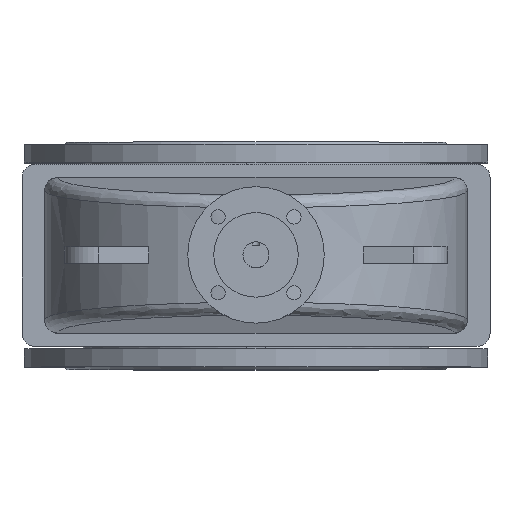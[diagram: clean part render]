
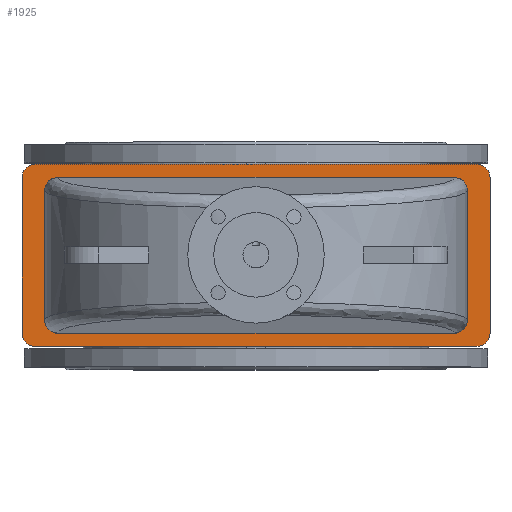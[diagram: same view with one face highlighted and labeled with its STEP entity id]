
A CAD part, top view. The second image highlights one B-rep face of the part: STEP entity #1925.
In plain terms, the highlighted planar face has unit normal (0, 0, 1).
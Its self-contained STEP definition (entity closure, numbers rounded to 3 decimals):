
#1925=ADVANCED_FACE('',(#5661,#5663),#5665,.T.);
#5661=FACE_BOUND('',#5662,.T.);
#5662=EDGE_LOOP('',(#7621,#7622,#7623,#7624,#7625,#7626,#7627,#7628));
#5663=FACE_BOUND('',#5664,.T.);
#5664=EDGE_LOOP('',(#7629,#7630,#7631,#7632,#7633,#7634,#7635,#7636));
#5665=PLANE('',#5666);
#5666=AXIS2_PLACEMENT_3D('',#5667,#5668,#5669);
#5667=CARTESIAN_POINT('',(0.,0.,566.));
#5668=DIRECTION('',(0.,-0.,1.));
#5669=DIRECTION('',(0.,1.,0.));
#7621=ORIENTED_EDGE('',*,*,#8281,.F.);
#7622=ORIENTED_EDGE('',*,*,#8294,.T.);
#7623=ORIENTED_EDGE('',*,*,#8293,.F.);
#7624=ORIENTED_EDGE('',*,*,#8291,.T.);
#7625=ORIENTED_EDGE('',*,*,#8289,.F.);
#7626=ORIENTED_EDGE('',*,*,#8287,.T.);
#7627=ORIENTED_EDGE('',*,*,#8285,.F.);
#7628=ORIENTED_EDGE('',*,*,#8282,.T.);
#7629=ORIENTED_EDGE('',*,*,#8295,.F.);
#7630=ORIENTED_EDGE('',*,*,#8296,.F.);
#7631=ORIENTED_EDGE('',*,*,#8297,.F.);
#7632=ORIENTED_EDGE('',*,*,#8298,.F.);
#7633=ORIENTED_EDGE('',*,*,#8299,.F.);
#7634=ORIENTED_EDGE('',*,*,#8300,.F.);
#7635=ORIENTED_EDGE('',*,*,#8301,.F.);
#7636=ORIENTED_EDGE('',*,*,#8302,.F.);
#8281=EDGE_CURVE('',#9199,#9197,#9201,.F.);
#8282=EDGE_CURVE('',#9202,#9197,#9203,.T.);
#8285=EDGE_CURVE('',#9202,#9205,#9207,.F.);
#8287=EDGE_CURVE('',#9208,#9205,#9210,.T.);
#8289=EDGE_CURVE('',#9208,#9211,#9213,.F.);
#8291=EDGE_CURVE('',#9214,#9211,#9216,.T.);
#8293=EDGE_CURVE('',#9214,#9217,#9219,.F.);
#8294=EDGE_CURVE('',#9199,#9217,#9220,.T.);
#8295=EDGE_CURVE('',#9221,#9222,#9223,.F.);
#8296=EDGE_CURVE('',#9224,#9221,#9225,.T.);
#8297=EDGE_CURVE('',#9226,#9224,#9227,.T.);
#8298=EDGE_CURVE('',#9228,#9226,#9229,.T.);
#8299=EDGE_CURVE('',#9230,#9228,#9231,.F.);
#8300=EDGE_CURVE('',#9232,#9230,#9233,.T.);
#8301=EDGE_CURVE('',#9234,#9232,#9235,.T.);
#8302=EDGE_CURVE('',#9222,#9234,#9236,.T.);
#9197=VERTEX_POINT('',#12223);
#9199=VERTEX_POINT('',#12227);
#9201=CIRCLE('',#12231,20.);
#9202=VERTEX_POINT('',#12235);
#9203=LINE('',#12236,#12237);
#9205=VERTEX_POINT('',#12242);
#9207=CIRCLE('',#12246,20.);
#9208=VERTEX_POINT('',#12250);
#9210=LINE('',#12254,#12255);
#9211=VERTEX_POINT('',#12257);
#9213=CIRCLE('',#12261,20.);
#9214=VERTEX_POINT('',#12265);
#9216=LINE('',#12269,#12270);
#9217=VERTEX_POINT('',#12272);
#9219=CIRCLE('',#12276,20.);
#9220=LINE('',#12280,#12281);
#9221=VERTEX_POINT('',#12283);
#9222=VERTEX_POINT('',#12284);
#9223=(BOUNDED_CURVE()B_SPLINE_CURVE(3,
(#12285,#12286,#12287,#12288),
.UNSPECIFIED.,.F.,.F.)B_SPLINE_CURVE_WITH_KNOTS((4,4),
(0.,1.),
.UNSPECIFIED.)CURVE()GEOMETRIC_REPRESENTATION_ITEM()RATIONAL_B_SPLINE_CURVE((1.,
0.805,0.805,1.))REPRESENTATION_ITEM(''));
#9224=VERTEX_POINT('',#12289);
#9225=LINE('',#12290,#12291);
#9226=VERTEX_POINT('',#12293);
#9227=(BOUNDED_CURVE()B_SPLINE_CURVE(3,
(#12294,#12295,#12296,#12297),
.UNSPECIFIED.,.F.,.F.)B_SPLINE_CURVE_WITH_KNOTS((4,4),
(0.,1.),
.UNSPECIFIED.)CURVE()GEOMETRIC_REPRESENTATION_ITEM()RATIONAL_B_SPLINE_CURVE((1.,
0.805,0.805,1.))REPRESENTATION_ITEM(''));
#9228=VERTEX_POINT('',#12298);
#9229=LINE('',#12299,#12300);
#9230=VERTEX_POINT('',#12302);
#9231=(BOUNDED_CURVE()B_SPLINE_CURVE(3,
(#12303,#12304,#12305,#12306),
.UNSPECIFIED.,.F.,.F.)B_SPLINE_CURVE_WITH_KNOTS((4,4),
(0.,1.),
.UNSPECIFIED.)CURVE()GEOMETRIC_REPRESENTATION_ITEM()RATIONAL_B_SPLINE_CURVE((1.,
0.805,0.805,1.))REPRESENTATION_ITEM(''));
#9232=VERTEX_POINT('',#12307);
#9233=LINE('',#12308,#12309);
#9234=VERTEX_POINT('',#12311);
#9235=(BOUNDED_CURVE()B_SPLINE_CURVE(3,
(#12312,#12313,#12314,#12315),
.UNSPECIFIED.,.F.,.F.)B_SPLINE_CURVE_WITH_KNOTS((4,4),
(0.,1.),
.UNSPECIFIED.)CURVE()GEOMETRIC_REPRESENTATION_ITEM()RATIONAL_B_SPLINE_CURVE((1.,
0.805,0.805,1.))REPRESENTATION_ITEM(''));
#9236=LINE('',#12316,#12317);
#12223=CARTESIAN_POINT('',(-360.,-120.,566.));
#12227=CARTESIAN_POINT('',(-340.,-140.,566.));
#12231=AXIS2_PLACEMENT_3D('',#12232,#12233,#12234);
#12232=CARTESIAN_POINT('',(-340.,-120.,566.));
#12233=DIRECTION('',(0.,-0.,1.));
#12234=DIRECTION('',(-1.,0.,0.));
#12235=CARTESIAN_POINT('',(-360.,120.,566.));
#12236=CARTESIAN_POINT('',(-360.,120.,566.));
#12237=VECTOR('',#12238,1.);
#12238=DIRECTION('',(0.,-1.,0.));
#12242=CARTESIAN_POINT('',(-340.,140.,566.));
#12246=AXIS2_PLACEMENT_3D('',#12247,#12248,#12249);
#12247=CARTESIAN_POINT('',(-340.,120.,566.));
#12248=DIRECTION('',(0.,-0.,1.));
#12249=DIRECTION('',(0.,1.,0.));
#12250=CARTESIAN_POINT('',(340.,140.,566.));
#12254=CARTESIAN_POINT('',(340.,140.,566.));
#12255=VECTOR('',#12256,1.);
#12256=DIRECTION('',(-1.,0.,0.));
#12257=CARTESIAN_POINT('',(360.,120.,566.));
#12261=AXIS2_PLACEMENT_3D('',#12262,#12263,#12264);
#12262=CARTESIAN_POINT('',(340.,120.,566.));
#12263=DIRECTION('',(0.,-0.,1.));
#12264=DIRECTION('',(1.,0.,0.));
#12265=CARTESIAN_POINT('',(360.,-120.,566.));
#12269=CARTESIAN_POINT('',(360.,-120.,566.));
#12270=VECTOR('',#12271,1.);
#12271=DIRECTION('',(0.,1.,0.));
#12272=CARTESIAN_POINT('',(340.,-140.,566.));
#12276=AXIS2_PLACEMENT_3D('',#12277,#12278,#12279);
#12277=CARTESIAN_POINT('',(340.,-120.,566.));
#12278=DIRECTION('',(0.,-0.,1.));
#12279=DIRECTION('',(0.,-1.,0.));
#12280=CARTESIAN_POINT('',(-340.,-140.,566.));
#12281=VECTOR('',#12282,1.);
#12282=DIRECTION('',(1.,0.,0.));
#12283=CARTESIAN_POINT('',(305.,-120.,566.));
#12284=CARTESIAN_POINT('',(325.,-99.924,566.));
#12285=CARTESIAN_POINT('',(325.,-99.924,566.));
#12286=CARTESIAN_POINT('',(325.,-111.684,566.));
#12287=CARTESIAN_POINT('',(316.716,-120.,566.));
#12288=CARTESIAN_POINT('',(305.,-120.,566.));
#12289=CARTESIAN_POINT('',(-305.,-120.,566.));
#12290=CARTESIAN_POINT('',(-305.,-120.,566.));
#12291=VECTOR('',#12292,1.);
#12292=DIRECTION('',(1.,0.,0.));
#12293=CARTESIAN_POINT('',(-325.,-99.924,566.));
#12294=CARTESIAN_POINT('',(-325.,-99.924,566.));
#12295=CARTESIAN_POINT('',(-325.,-111.684,566.));
#12296=CARTESIAN_POINT('',(-316.716,-120.,566.));
#12297=CARTESIAN_POINT('',(-305.,-120.,566.));
#12298=CARTESIAN_POINT('',(-325.,99.924,566.));
#12299=CARTESIAN_POINT('',(-325.,99.924,566.));
#12300=VECTOR('',#12301,1.);
#12301=DIRECTION('',(0.,-1.,0.));
#12302=CARTESIAN_POINT('',(-305.,120.,566.));
#12303=CARTESIAN_POINT('',(-325.,99.924,566.));
#12304=CARTESIAN_POINT('',(-325.,111.684,566.));
#12305=CARTESIAN_POINT('',(-316.716,120.,566.));
#12306=CARTESIAN_POINT('',(-305.,120.,566.));
#12307=CARTESIAN_POINT('',(305.,120.,566.));
#12308=CARTESIAN_POINT('',(305.,120.,566.));
#12309=VECTOR('',#12310,1.);
#12310=DIRECTION('',(-1.,0.,0.));
#12311=CARTESIAN_POINT('',(325.,99.924,566.));
#12312=CARTESIAN_POINT('',(325.,99.924,566.));
#12313=CARTESIAN_POINT('',(325.,111.684,566.));
#12314=CARTESIAN_POINT('',(316.716,120.,566.));
#12315=CARTESIAN_POINT('',(305.,120.,566.));
#12316=CARTESIAN_POINT('',(325.,-99.924,566.));
#12317=VECTOR('',#12318,1.);
#12318=DIRECTION('',(0.,1.,0.));
